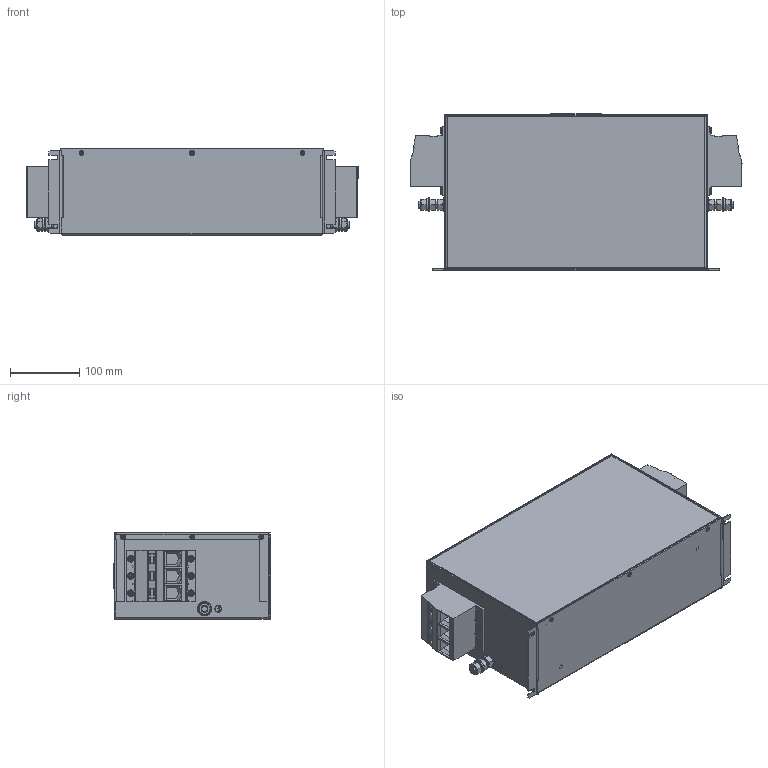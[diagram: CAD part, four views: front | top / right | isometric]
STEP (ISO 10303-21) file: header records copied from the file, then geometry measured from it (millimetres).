
FILE_DESCRIPTION((''),'2;1');
FILE_NAME('PRT0007','2021-11-19T',('EE7046'),(''),'CREO PARAMETRIC BY PTC INC, 2018220','CREO PARAMETRIC BY PTC INC, 2018220','');
FILE_SCHEMA(('AUTOMOTIVE_DESIGN { 1 0 10303 214 1 1 1 1 }'));
Products named in the file (1): PRT0007
Bounding box: 480.98 x 226.3 x 125 mm (x, y, z)
Volume: 974601.2 mm3; surface area: 703959.9 mm2
Topology: 1 solids, 25 shells, 2193 faces, 5411 edges, 3414 vertices
Faces by surface type: plane 1127, cylinder 616, cone 270, torus 96, bspline 84
Entity records: 68203 total; most frequent: CARTESIAN_POINT 16738, ORIENTED_EDGE 10774, DIRECTION 10371, EDGE_CURVE 5387, AXIS2_PLACEMENT_3D 3711, VERTEX_POINT 3414, VECTOR 2949, LINE 2949
